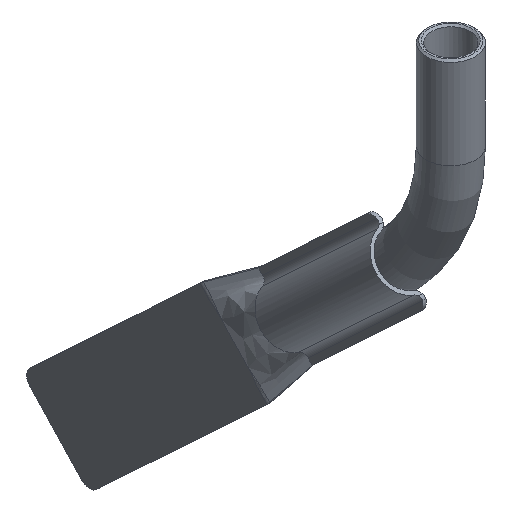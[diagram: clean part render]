
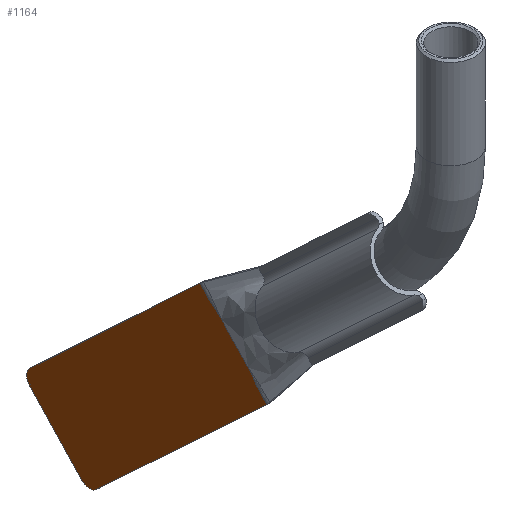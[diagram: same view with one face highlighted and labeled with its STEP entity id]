
A CAD part, isometric view. The second image highlights one B-rep face of the part: STEP entity #1164.
In plain terms, the highlighted planar face has unit normal (-1, 0, 0).
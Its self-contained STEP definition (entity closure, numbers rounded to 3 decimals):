
#100=FACE_OUTER_BOUND('',#160,.T.);
#160=EDGE_LOOP('',(#942,#943,#944,#945,#946,#947,#948,#949));
#204=LINE('',#1908,#261);
#217=LINE('',#5045,#274);
#219=LINE('',#5209,#276);
#224=LINE('',#5227,#281);
#261=VECTOR('',#1393,10.);
#274=VECTOR('',#1438,10.);
#276=VECTOR('',#1442,10.);
#281=VECTOR('',#1465,10.);
#313=CIRCLE('',#1233,3.);
#315=CIRCLE('',#1238,3.);
#395=B_SPLINE_CURVE_WITH_KNOTS('',3,(#4993,#4994,#4995,#4996,#4997,#4998,
#4999,#5000,#5001,#5002,#5003,#5004,#5005,#5006,#5007),.UNSPECIFIED.,.F.,
 .F.,(4,2,1,2,1,1,1,3,4),(-0.011,0.167,0.335,
0.419,0.441,0.657,0.741,
0.825,0.828),.UNSPECIFIED.);
#403=B_SPLINE_CURVE_WITH_KNOTS('',3,(#5113,#5114,#5115,#5116,#5117,#5118,
#5119,#5120,#5121,#5122,#5123,#5124),.UNSPECIFIED.,.F.,.F.,(4,2,1,2,2,1,
4),(-0.003,0.,0.162,0.406,0.658,
0.732,0.836),.UNSPECIFIED.);
#448=VERTEX_POINT('',#1863);
#449=VERTEX_POINT('',#1865);
#456=VERTEX_POINT('',#1907);
#457=VERTEX_POINT('',#1911);
#485=VERTEX_POINT('',#4991);
#486=VERTEX_POINT('',#4992);
#492=VERTEX_POINT('',#5102);
#493=VERTEX_POINT('',#5112);
#572=EDGE_CURVE('',#448,#449,#313,.T.);
#581=EDGE_CURVE('',#456,#449,#204,.T.);
#583=EDGE_CURVE('',#456,#457,#315,.T.);
#630=EDGE_CURVE('',#485,#486,#395,.T.);
#637=EDGE_CURVE('',#485,#457,#217,.T.);
#641=EDGE_CURVE('',#492,#493,#403,.T.);
#645=EDGE_CURVE('',#492,#486,#219,.T.);
#654=EDGE_CURVE('',#448,#493,#224,.T.);
#942=ORIENTED_EDGE('',*,*,#572,.F.);
#943=ORIENTED_EDGE('',*,*,#654,.T.);
#944=ORIENTED_EDGE('',*,*,#641,.F.);
#945=ORIENTED_EDGE('',*,*,#645,.T.);
#946=ORIENTED_EDGE('',*,*,#630,.F.);
#947=ORIENTED_EDGE('',*,*,#637,.T.);
#948=ORIENTED_EDGE('',*,*,#583,.F.);
#949=ORIENTED_EDGE('',*,*,#581,.T.);
#1054=PLANE('',#1263);
#1164=ADVANCED_FACE('',(#100),#1054,.F.);
#1233=AXIS2_PLACEMENT_3D('',#1866,#1380,#1381);
#1238=AXIS2_PLACEMENT_3D('',#1912,#1397,#1398);
#1263=AXIS2_PLACEMENT_3D('',#5228,#1466,#1467);
#1380=DIRECTION('center_axis',(1.,0.,0.));
#1381=DIRECTION('ref_axis',(0.,0.035,-0.999));
#1393=DIRECTION('',(0.,-0.682,-0.731));
#1397=DIRECTION('center_axis',(1.,0.,0.));
#1398=DIRECTION('ref_axis',(0.,0.999,0.035));
#1438=DIRECTION('',(0.,0.731,-0.682));
#1442=DIRECTION('',(0.,0.682,0.731));
#1465=DIRECTION('',(0.,-0.731,0.682));
#1466=DIRECTION('center_axis',(1.,0.,0.));
#1467=DIRECTION('ref_axis',(0.,-0.682,-0.731));
#1863=CARTESIAN_POINT('',(-6.,95.3,-140.868));
#1865=CARTESIAN_POINT('',(-6.,99.54,-140.72));
#1866=CARTESIAN_POINT('Origin',(-6.,97.346,-138.674));
#1907=CARTESIAN_POINT('',(-6.,114.544,-124.63));
#1908=CARTESIAN_POINT('',(-6.,111.816,-127.556));
#1911=CARTESIAN_POINT('',(-6.,114.396,-120.39));
#1912=CARTESIAN_POINT('Origin',(-6.,112.35,-122.584));
#4991=CARTESIAN_POINT('',(-6.,65.803,-75.076));
#4992=CARTESIAN_POINT('',(-6.,59.689,-80.816));
#4993=CARTESIAN_POINT('Ctrl Pts',(-6.,65.803,-75.076));
#4994=CARTESIAN_POINT('Ctrl Pts',(-6.,65.399,-75.509));
#4995=CARTESIAN_POINT('Ctrl Pts',(-6.,64.995,-75.943));
#4996=CARTESIAN_POINT('Ctrl Pts',(-6.,64.207,-76.787));
#4997=CARTESIAN_POINT('Ctrl Pts',(-6.,63.606,-77.377));
#4998=CARTESIAN_POINT('Ctrl Pts',(-6.,62.973,-77.93));
#4999=CARTESIAN_POINT('Ctrl Pts',(-6.,62.703,-78.161));
#5000=CARTESIAN_POINT('Ctrl Pts',(-6.,62.1,-78.678));
#5001=CARTESIAN_POINT('Ctrl Pts',(-6.,61.288,-79.381));
#5002=CARTESIAN_POINT('Ctrl Pts',(-6.,60.333,-80.231));
#5003=CARTESIAN_POINT('Ctrl Pts',(-6.,59.918,-80.606));
#5004=CARTESIAN_POINT('Ctrl Pts',(-6.,59.712,-80.795));
#5005=CARTESIAN_POINT('Ctrl Pts',(-6.,59.704,-80.802));
#5006=CARTESIAN_POINT('Ctrl Pts',(-6.,59.697,-80.809));
#5007=CARTESIAN_POINT('Ctrl Pts',(-6.,59.689,-80.816));
#5045=CARTESIAN_POINT('',(-6.,78.194,-86.631));
#5102=CARTESIAN_POINT('',(-6.,52.006,-89.054));
#5112=CARTESIAN_POINT('',(-6.,46.707,-95.554));
#5113=CARTESIAN_POINT('Ctrl Pts',(-6.,52.006,-89.054));
#5114=CARTESIAN_POINT('Ctrl Pts',(-6.,52.,-89.063));
#5115=CARTESIAN_POINT('Ctrl Pts',(-6.,51.993,-89.071));
#5116=CARTESIAN_POINT('Ctrl Pts',(-6.,51.651,-89.501));
#5117=CARTESIAN_POINT('Ctrl Pts',(-6.,50.82,-90.569));
#5118=CARTESIAN_POINT('Ctrl Pts',(-6.,50.009,-91.653));
#5119=CARTESIAN_POINT('Ctrl Pts',(-6.,49.023,-92.982));
#5120=CARTESIAN_POINT('Ctrl Pts',(-6.,48.494,-93.638));
#5121=CARTESIAN_POINT('Ctrl Pts',(-6.,47.752,-94.434));
#5122=CARTESIAN_POINT('Ctrl Pts',(-6.,47.347,-94.867));
#5123=CARTESIAN_POINT('Ctrl Pts',(-6.,46.943,-95.301));
#5124=CARTESIAN_POINT('Ctrl Pts',(-6.,46.707,-95.554));
#5209=CARTESIAN_POINT('',(-6.,51.074,-90.055));
#5227=CARTESIAN_POINT('',(-6.,84.696,-130.979));
#5228=CARTESIAN_POINT('Origin',(-6.,81.445,-108.805));
